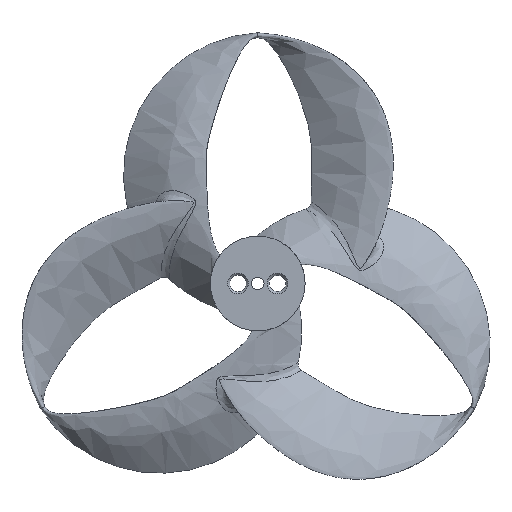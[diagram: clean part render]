
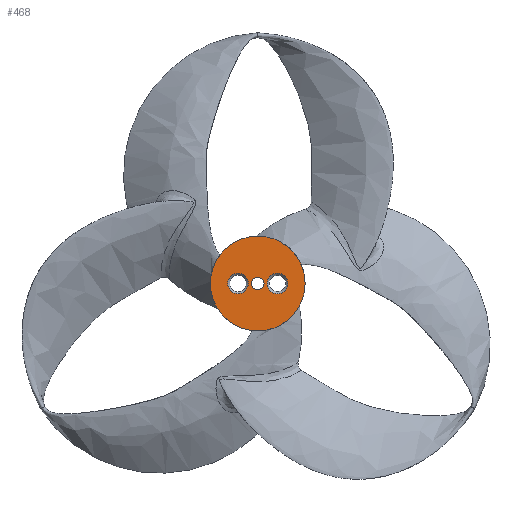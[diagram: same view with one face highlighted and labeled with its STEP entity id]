
A CAD part, top view. The second image highlights one B-rep face of the part: STEP entity #468.
In plain terms, the highlighted planar face has unit normal (0, 0, 1).
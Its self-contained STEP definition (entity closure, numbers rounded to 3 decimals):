
#25=FACE_BOUND('',#101,.T.);
#26=FACE_BOUND('',#102,.T.);
#27=FACE_BOUND('',#103,.T.);
#55=PLANE('',#521);
#73=FACE_OUTER_BOUND('',#100,.T.);
#100=EDGE_LOOP('',(#408));
#101=EDGE_LOOP('',(#409));
#102=EDGE_LOOP('',(#410));
#103=EDGE_LOOP('',(#411));
#147=CIRCLE('',#519,1.3);
#149=CIRCLE('',#522,6.);
#150=CIRCLE('',#523,1.3);
#151=CIRCLE('',#524,0.8);
#213=VERTEX_POINT('',#2853);
#215=VERTEX_POINT('',#2859);
#216=VERTEX_POINT('',#2861);
#217=VERTEX_POINT('',#2863);
#280=EDGE_CURVE('',#213,#213,#147,.T.);
#283=EDGE_CURVE('',#215,#215,#149,.T.);
#284=EDGE_CURVE('',#216,#216,#150,.T.);
#285=EDGE_CURVE('',#217,#217,#151,.T.);
#408=ORIENTED_EDGE('',*,*,#283,.F.);
#409=ORIENTED_EDGE('',*,*,#284,.T.);
#410=ORIENTED_EDGE('',*,*,#285,.F.);
#411=ORIENTED_EDGE('',*,*,#280,.T.);
#468=ADVANCED_FACE('',(#73,#25,#26,#27),#55,.F.);
#519=AXIS2_PLACEMENT_3D('',#2854,#598,#599);
#521=AXIS2_PLACEMENT_3D('',#2858,#603,#604);
#522=AXIS2_PLACEMENT_3D('',#2860,#605,#606);
#523=AXIS2_PLACEMENT_3D('',#2862,#607,#608);
#524=AXIS2_PLACEMENT_3D('',#2864,#609,#610);
#598=DIRECTION('center_axis',(0.,0.,-1.));
#599=DIRECTION('ref_axis',(-1.,0.,0.));
#603=DIRECTION('center_axis',(0.,0.,-1.));
#604=DIRECTION('ref_axis',(-1.,0.,0.));
#605=DIRECTION('center_axis',(0.,0.,-1.));
#606=DIRECTION('ref_axis',(-1.,0.,0.));
#607=DIRECTION('center_axis',(0.,0.,-1.));
#608=DIRECTION('ref_axis',(-1.,0.,0.));
#609=DIRECTION('center_axis',(0.,0.,1.));
#610=DIRECTION('ref_axis',(-1.,0.,0.));
#2853=CARTESIAN_POINT('',(3.8,0.,5.));
#2854=CARTESIAN_POINT('Origin',(2.5,0.,5.));
#2858=CARTESIAN_POINT('Origin',(0.,0.,5.));
#2859=CARTESIAN_POINT('',(6.,0.,5.));
#2860=CARTESIAN_POINT('Origin',(0.,0.,5.));
#2861=CARTESIAN_POINT('',(-1.2,0.,5.));
#2862=CARTESIAN_POINT('Origin',(-2.5,0.,5.));
#2863=CARTESIAN_POINT('',(0.8,0.,5.));
#2864=CARTESIAN_POINT('Origin',(0.,0.,5.));
